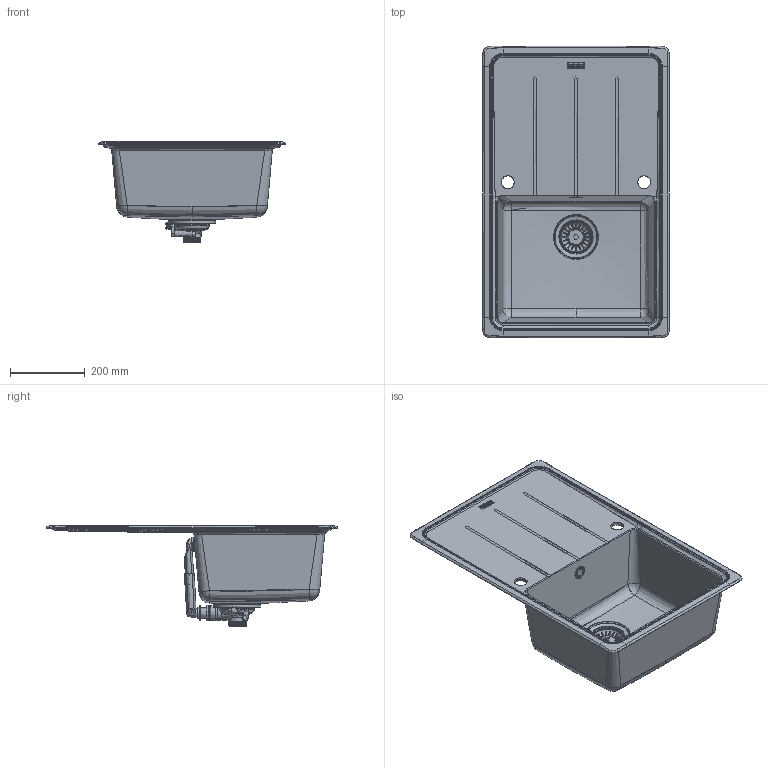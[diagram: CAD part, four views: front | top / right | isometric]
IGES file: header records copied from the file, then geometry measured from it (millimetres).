
Global section: file name: F:\_CONVERSIONE_CAD_2024_2025\_2024\03_3D kits new\Sinks\BASIS\114.0706.684 3D001_Sinks_Basis_BFG-611-78\3D001_Sinks_Basis_BFG-611-78.igs; native system: Rhinoceros ( May 17 2024 ); preprocessor: Trout Lake IGES 012 May 17 2024; date: 240626.131958; units: millimetre
Bounding box: 499.86 x 779.86 x 270.5 mm (x, y, z)
Surface area: 1354164.2 mm2 (no closed solid volume)
Topology: 0 solids, 0 shells, 2609 faces, 15943 edges, 15850 vertices
Faces by surface type: bspline 2609
